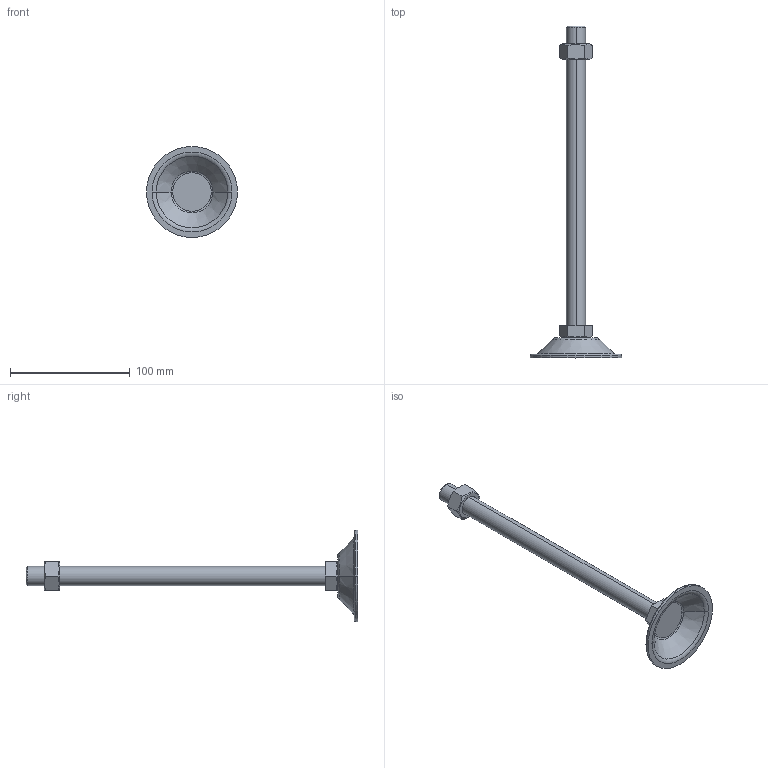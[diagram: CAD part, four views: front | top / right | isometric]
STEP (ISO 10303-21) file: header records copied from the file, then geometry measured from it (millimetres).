
FILE_DESCRIPTION (( 'STEP AP214' ), '1' );
FILE_NAME ('BL76-M16-250.step', '2021-01-06T05:40:07', ( '' ), ( '' ), 'SwSTEP 2.0', 'SolidWorks 2019', '' );
FILE_SCHEMA (( 'AUTOMOTIVE_DESIGN' ));
Length unit declared in the file: millimetre
Products named in the file (1): BL76-M16-250
Bounding box: 76 x 277 x 76 mm (x, y, z)
Volume: 75035.8 mm3; surface area: 27886.3 mm2
Topology: 3 solids, 3 shells, 53 faces, 110 edges, 66 vertices
Faces by surface type: plane 21, cone 16, torus 10, cylinder 6
Entity records: 1618 total; most frequent: CARTESIAN_POINT 428, DIRECTION 252, ORIENTED_EDGE 220, EDGE_CURVE 110, AXIS2_PLACEMENT_3D 106, VERTEX_POINT 66, EDGE_LOOP 58, FACE_OUTER_BOUND 53
